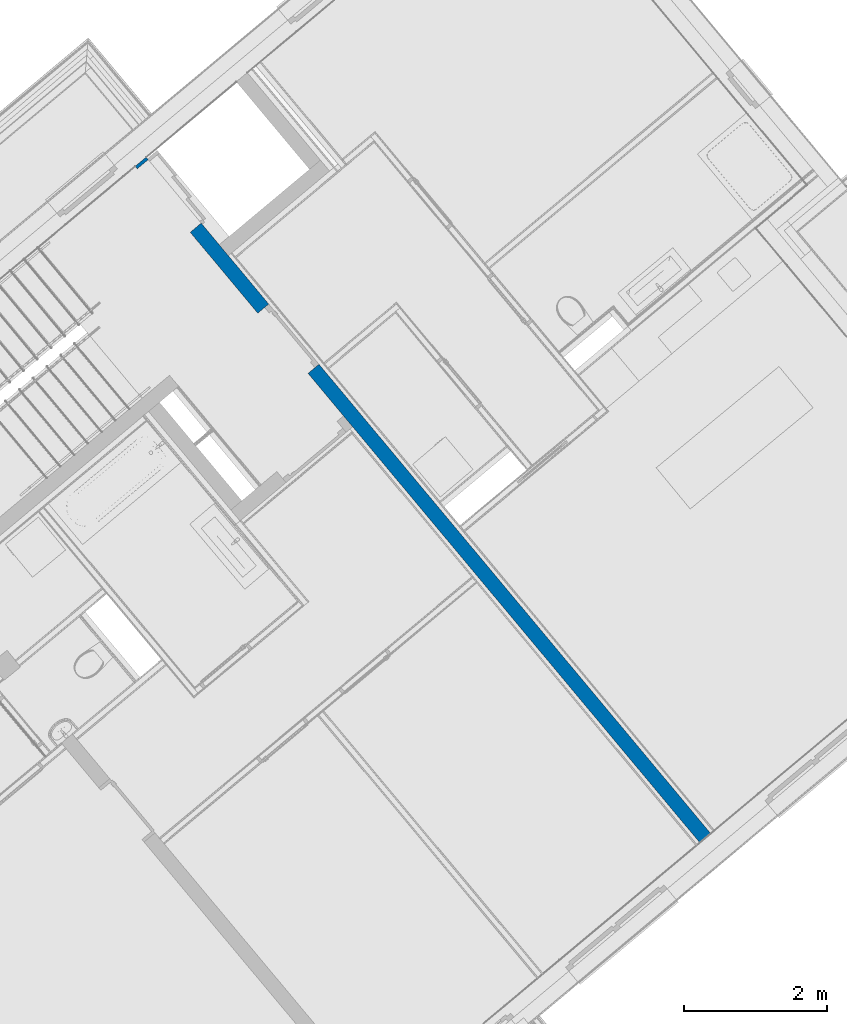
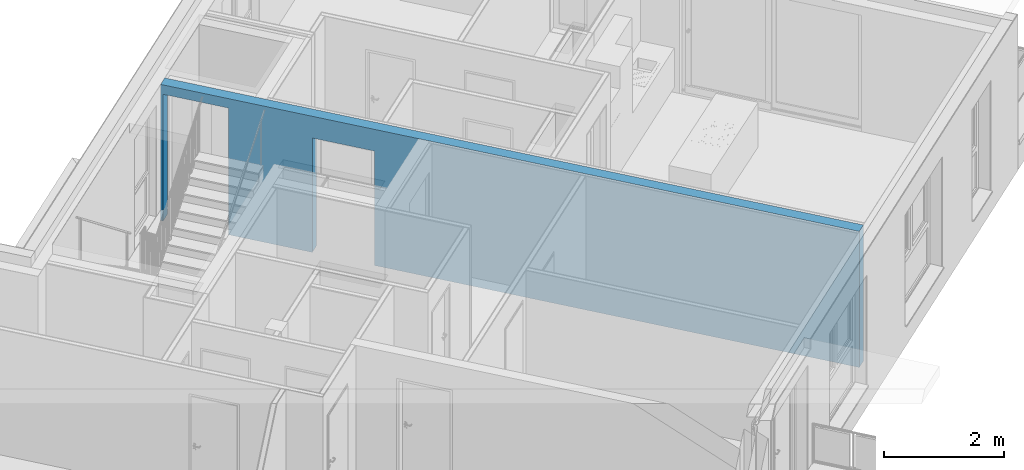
# One storey, part 8 of 53: 1 wall, 2 openings.
"""IFC4 building model written with IfcOpenShell, lengths in metres."""

import ifcopenshell
import ifcopenshell.guid

model = None  # the IFC model being written
_history = None  # IfcOwnerHistory: only IFC2X3 demands one
_inside = {}  # id of a spatial element -> (the spatial element, [elements in it])
_under = {}  # id of a project, library or spatial element -> (it, [spatial elements below it])
_declared = {}  # id of a project -> (the project, [libraries it declares])
_typed = {}  # id of a type object -> (the type object, [elements of that type])
_made_of = {}  # id of a material, layer set ... -> (it, [elements and type objects made of it])


def new_model(schema):
    """Start an empty IFC model of exactly this schema.

    Asked for "IFC4X3", IfcOpenShell would pick the latest addendum, in which some entities
    have other attributes; the version numbers below select the first issue.
    IFC2X3 requires an IfcOwnerHistory on every rooted entity: one is made here for all.
    """
    global model, _history
    if schema == "IFC4X3":
        model = ifcopenshell.file(schema_version=(4, 3, 0, 0))
    else:
        model = ifcopenshell.file(schema=schema)
    _inside.clear()
    _under.clear()
    _declared.clear()
    _typed.clear()
    _made_of.clear()
    _history = None
    if model.schema == "IFC2X3":
        org = make("IfcOrganization", Name="unknown")
        user = make(
            "IfcPersonAndOrganization",
            ThePerson=make("IfcPerson", FamilyName="unknown"),
            TheOrganization=org,
        )
        app = make(
            "IfcApplication",
            ApplicationDeveloper=org,
            Version="unknown",
            ApplicationFullName="unknown",
            ApplicationIdentifier="unknown",
        )
        _history = make(
            "IfcOwnerHistory",
            OwningUser=user,
            OwningApplication=app,
            ChangeAction="ADDED",
            CreationDate=0,
        )
    return model


def make(cls, **values):
    """One entity of the class cls with the attributes given. An attribute that is None is left unset."""
    return model.create_entity(
        cls, **{name: value for name, value in values.items() if value is not None}
    )


def entity(cls, *values):
    """Any entity or typed value of the class cls, its attributes in the order of the schema. None: left unset."""
    e = model.create_entity(cls)
    for i, value in enumerate(values):
        if value is not None:
            e[i] = value
    return e


def rooted(cls, **values):
    """An entity with a GlobalId (a new one), such as an element, a storey or a relation."""
    return make(cls, GlobalId=ifcopenshell.guid.new(), OwnerHistory=_history, **values)


def si_unit(unit_type, name, prefix=None):
    """IfcSIUnit, for example si_unit("LENGTHUNIT", "METRE", prefix="MILLI")."""
    return make("IfcSIUnit", UnitType=unit_type, Prefix=prefix, Name=name)


def converted_unit(unit_type, name, factor, base, dimensions=None, offset=None):
    """IfcConversionBasedUnit, such as the inch: factor (a typed value) times the base unit."""
    return make(
        "IfcConversionBasedUnit"
        if offset is None
        else "IfcConversionBasedUnitWithOffset",
        ConversionOffset=offset,
        Dimensions=None
        if dimensions is None
        else entity("IfcDimensionalExponents", *dimensions),
        UnitType=unit_type,
        Name=name,
        ConversionFactor=make(
            "IfcMeasureWithUnit", ValueComponent=factor, UnitComponent=base
        ),
    )


def derived_unit(unit_type, elements):
    """IfcDerivedUnit: a product of units, each with its exponent."""
    return make(
        "IfcDerivedUnit",
        Elements=[
            make("IfcDerivedUnitElement", Unit=unit, Exponent=power)
            for unit, power in elements
        ],
        UnitType=unit_type,
    )


def assignment(units):
    """IfcUnitAssignment: the units of a project."""
    return None if units is None else make("IfcUnitAssignment", Units=units)


def point(xyz):
    """IfcCartesianPoint."""
    return None if xyz is None else make("IfcCartesianPoint", Coordinates=xyz)


def direction(xyz):
    """IfcDirection."""
    return None if xyz is None else make("IfcDirection", DirectionRatios=xyz)


def frame(location, z_axis=None, x_axis=None):
    """IfcAxis2Placement3D, a coordinate frame: its origin and axes. An axis left out is left unset."""
    return make(
        "IfcAxis2Placement3D",
        Location=point(location),
        Axis=direction(z_axis),
        RefDirection=direction(x_axis),
    )


def origin_with_axes():
    """The frame at (0, 0, 0) with the z axis (0, 0, 1) and the x axis (1, 0, 0) written out."""
    return frame((0.0, 0.0, 0.0), z_axis=(0.0, 0.0, 1.0), x_axis=(1.0, 0.0, 0.0))


def place(relative_to, where):
    """IfcLocalPlacement: puts the frame where relative to a parent placement (None: the world)."""
    return make(
        "IfcLocalPlacement", PlacementRelTo=relative_to, RelativePlacement=where
    )


def context(
    kind, dimensions, precision=None, world=None, true_north=None, identifier=None
):
    """IfcGeometricRepresentationContext, for example the 3D "Model" context."""
    return make(
        "IfcGeometricRepresentationContext",
        ContextIdentifier=identifier,
        ContextType=kind,
        CoordinateSpaceDimension=dimensions,
        Precision=precision,
        WorldCoordinateSystem=world,
        TrueNorth=true_north,
    )


def subcontext(parent, identifier, kind, view, scale=None):
    """IfcGeometricRepresentationSubContext, for example "Body" below "Model"."""
    return make(
        "IfcGeometricRepresentationSubContext",
        ContextIdentifier=identifier,
        ContextType=kind,
        ParentContext=parent,
        TargetScale=scale,
        TargetView=view,
    )


def project(units=None, contexts=None):
    """IfcProject with its units and contexts."""
    return rooted(
        "IfcProject",
        Name="project",
        RepresentationContexts=contexts,
        UnitsInContext=assignment(units),
    )


def spatial(cls, under=None, at=None, **own):
    """A site, building, storey or space (cls), placed at a placement, below another one or the project."""
    s = rooted(cls, ObjectPlacement=at, **own)
    if under is not None:
        _under.setdefault(under.id(), (under, []))[1].append(s)
    return s


def point_list(points):
    """IfcCartesianPointList2D or 3D."""
    cls = (
        "IfcCartesianPointList2D" if len(points[0]) == 2 else "IfcCartesianPointList3D"
    )
    return make(cls, CoordList=points)


def polygons(points, faces, closed=None, point_numbers=None):
    """IfcPolygonalFaceSet: a face is its outer loop, then its inner loops; points numbered from 1."""
    made = []
    for loops in faces:
        if len(loops) == 1:
            made.append(make("IfcIndexedPolygonalFace", CoordIndex=loops[0]))
        else:
            made.append(
                make(
                    "IfcIndexedPolygonalFaceWithVoids",
                    CoordIndex=loops[0],
                    InnerCoordIndices=loops[1:],
                )
            )
    return make(
        "IfcPolygonalFaceSet",
        Coordinates=point_list(points),
        Closed=closed,
        Faces=made,
        PnIndex=point_numbers,
    )


def shape(context_of_items, identifier, shape_type, items):
    """IfcShapeRepresentation: the items that make up one representation, for example the "Body"."""
    return make(
        "IfcShapeRepresentation",
        ContextOfItems=context_of_items,
        RepresentationIdentifier=identifier,
        RepresentationType=shape_type,
        Items=items,
    )


def material(Name=None, Category=None):
    """IfcMaterial."""
    return make("IfcMaterial", Name=Name, Category=Category)


def made_of(thing, what):
    """Note that an element or type object is made of a material, layer set ...; save() writes the relation."""
    if what is not None:
        _made_of.setdefault(what.id(), (what, []))[1].append(thing)
    return thing


def type_object(cls, material=None, **own):
    """A type object (cls), such as IfcWallType, which elements share."""
    return made_of(rooted(cls, **own), material)


def element(
    cls,
    number,
    at=None,
    inside=None,
    cuts=None,
    type_object=None,
    material=None,
    context=None,
    identifier="Body",
    shape_type=None,
    held_by="IfcProductDefinitionShape",
    body=None,
    shapes=None,
    **own,
):
    """One element of the class cls, such as IfcWall. Its Tag is "e" and its number.

    at: its placement. inside: the storey or other place that contains it. cuts: it is an
    opening in that element (IfcRelVoidsElement). A single representation is given by context,
    identifier, shape_type and body (its items); several are given by shapes. held_by: the class
    of the entity that holds the representations. save() writes the other relations.
    """
    e = rooted(cls, Tag="e%d" % number, ObjectPlacement=at, **own)
    if body is not None:
        shapes = [shape(context, identifier, shape_type, body)]
    if shapes is not None:
        e.Representation = make(held_by, Representations=shapes)
    if inside is not None:
        _inside.setdefault(inside.id(), (inside, []))[1].append(e)
    if cuts is not None:
        rooted(
            "IfcRelVoidsElement", RelatingBuildingElement=cuts, RelatedOpeningElement=e
        )
    if type_object is not None:
        _typed.setdefault(type_object.id(), (type_object, []))[1].append(e)
    return made_of(e, material)


def aggregate(whole, parts):
    """IfcRelAggregates: a whole, such as a stair, and the parts it consists of."""
    return rooted("IfcRelAggregates", RelatingObject=whole, RelatedObjects=parts)


def save(model, path):
    """Write the relations noted so far, then the file.

    IfcRelAggregates (storeys below a building ...), IfcRelContainedInSpatialStructure (elements
    in a storey), IfcRelDefinesByType, IfcRelAssociatesMaterial and IfcRelDeclares: one each for
    every whole, place, type object, material and project.
    """
    for whole, parts in _under.values():
        aggregate(whole, parts)
    for where, things in _inside.values():
        rooted(
            "IfcRelContainedInSpatialStructure",
            RelatedElements=things,
            RelatingStructure=where,
        )
    for kind, things in _typed.values():
        rooted("IfcRelDefinesByType", RelatedObjects=things, RelatingType=kind)
    for what, things in _made_of.values():
        rooted("IfcRelAssociatesMaterial", RelatedObjects=things, RelatingMaterial=what)
    for by, libraries in _declared.values():
        rooted("IfcRelDeclares", RelatingContext=by, RelatedDefinitions=libraries)
    model.write(path)


model = new_model("IFC4")

# Units and contexts
model_context = context("Model", 3, precision=1e-05, world=origin_with_axes(), true_north=direction((0.0, 1.0)))
body_context = subcontext(model_context, "Body", "Model", "MODEL_VIEW")
ifc_project = project(units=[si_unit("LENGTHUNIT", "METRE"), si_unit("AREAUNIT", "SQUARE_METRE"), si_unit("VOLUMEUNIT", "CUBIC_METRE"), converted_unit("PLANEANGLEUNIT", "DEGREE", entity("IfcPlaneAngleMeasure", 0.0174532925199), si_unit("PLANEANGLEUNIT", "RADIAN"), dimensions=[0, 0, 0, 0, 0, 0, 0]), converted_unit("TIMEUNIT", "Year", entity("IfcTimeMeasure", 31556926.0), si_unit("TIMEUNIT", "SECOND"), dimensions=[0, 0, 1, 0, 0, 0, 0]), si_unit("MASSUNIT", "GRAM", prefix="KILO"), si_unit("THERMODYNAMICTEMPERATUREUNIT", "DEGREE_CELSIUS"), si_unit("LUMINOUSINTENSITYUNIT", "LUMEN"), si_unit("ENERGYUNIT", "JOULE", prefix="MEGA"), derived_unit("THERMALCONDUCTANCEUNIT", [(si_unit("POWERUNIT", "WATT"), 1), (si_unit("LENGTHUNIT", "METRE"), -1), (si_unit("THERMODYNAMICTEMPERATUREUNIT", "KELVIN"), -1)]), derived_unit("SPECIFICHEATCAPACITYUNIT", [(si_unit("ENERGYUNIT", "JOULE"), 1), (si_unit("MASSUNIT", "GRAM", prefix="KILO"), -1), (si_unit("THERMODYNAMICTEMPERATUREUNIT", "KELVIN"), -1)]), derived_unit("MASSDENSITYUNIT", [(si_unit("MASSUNIT", "GRAM", prefix="KILO"), 1), (si_unit("VOLUMEUNIT", "CUBIC_METRE"), -1)])], contexts=[model_context])

# Site, building, storey
site_placement = place(None, frame((-0.00153261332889, -0.00661245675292, 0.0), z_axis=(0.0, 0.0, 1.0), x_axis=(1.0, 0.0, 0.0)))
site = spatial("IfcSite", under=ifc_project, at=site_placement, Name="Gelände", CompositionType="ELEMENT")
building_placement = place(site_placement, origin_with_axes())
building = spatial("IfcBuilding", under=site, at=building_placement, Name="Gebäude", CompositionType="ELEMENT")
storey_placement = place(building_placement, frame((0.0, 0.0, 2.74), z_axis=(0.0, 0.0, 1.0), x_axis=(1.0, 0.0, 0.0)))
storey = spatial("IfcBuildingStorey", under=building, at=storey_placement, Name="OG1", CompositionType="ELEMENT", Elevation=2.74)

# Wall, openings
ifc_material = material(Name="Stahlbeton Wand")
wall_type = type_object("IfcWallType", Name="Stahlbeton Wand 200", PredefinedType="NOTDEFINED")
wall_placement = place(storey_placement, frame((8.26096619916, 16.5219342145, 0.0), z_axis=(0.0, 0.0, 1.0), x_axis=(-0.640845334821, 0.767670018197, 0.0)))
wall = element("IfcWall", 1, at=wall_placement, inside=storey, type_object=wall_type, material=ifc_material, Name="Wand-003", PredefinedType="NOTDEFINED", context=body_context, shape_type="Tessellation", body=[
    polygons([(12.3191850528, 4.58202684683e-08, 2.57), (12.3191850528, 9.38576505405e-09, 0.22), (12.3191850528, 9.38576505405e-09, 0.0), (12.3653297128, 0.0, 0.0), (12.3653297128, 0.0, 2.76), (0.0, 0.0, 2.76), (0.0, 0.0, 0.0), (8.58020969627, 4.58202684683e-08, 0.0), (8.58020969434, 4.58202684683e-08, 0.22), (8.58020969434, 4.5820272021e-08, 2.32), (9.68020969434, 4.5820272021e-08, 2.32), (9.68020969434, 1.84487696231e-08, 0.22), (9.68020969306, 1.84487696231e-08, 0.0), (11.1591850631, 4.1292480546e-10, 0.0), (11.1591850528, 4.1292480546e-10, 0.22), (11.1591850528, 4.5820272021e-08, 2.57), (12.3191850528, 0.2, 2.57), (12.3191850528, 0.2, 0.22), (12.3191850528, 0.2, 0.0), (12.3652348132, 0.2, 0.0), (12.3652348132, 0.2, 2.76), (0.0, 0.2, 2.76), (0.0, 0.2, 0.0), (8.58020969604, 0.2, 0.0), (8.58020969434, 0.2, 0.22), (8.58020969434, 0.075, 0.22), (8.58020969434, 0.2, 2.32), (9.68020969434, 0.2, 2.32), (9.68020969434, 0.2, 0.22), (9.68020969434, 0.075, 0.22), (9.68020969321, 0.2, 0.0), (11.1591850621, 0.2, 0.0), (11.1591850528, 0.2, 0.22), (11.1591850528, 0.2, 2.57)], [[[1, 2, 3, 4, 5, 6, 7, 8, 9, 10, 11, 12, 13, 14, 15, 16]], [[2, 1, 17, 18]], [[2, 18, 19, 3]], [[20, 4, 3, 19]], [[20, 21, 5, 4]], [[21, 22, 6, 5]], [[23, 7, 6, 22]], [[7, 23, 24, 8]], [[8, 24, 25, 26, 9]], [[26, 25, 27, 10, 9]], [[10, 27, 28, 11]], [[11, 28, 29, 30, 12]], [[29, 31, 13, 12, 30]], [[13, 31, 32, 14]], [[33, 15, 14, 32]], [[16, 15, 33, 34]], [[1, 16, 34, 17]], [[34, 33, 32, 31, 29, 28, 27, 25, 24, 23, 22, 21, 20, 19, 18, 17]]], closed=True),
])
opening_1_placement = place(wall_placement, frame((9.13020969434, 0.0, 0.22), z_axis=(0.0, 0.0, 1.0), x_axis=(1.0, 0.0, 0.0)))
element("IfcOpeningElement", 2, at=opening_1_placement, cuts=wall, Name="Tür-001", context=body_context, identifier="Reference", shape_type="Tessellation", body=[
    polygons([(-0.55, 0.075, -0.22), (-0.55, 0.075, 2.1), (-0.55, 6.48838227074, 2.1), (-0.55, 6.48838227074, -0.22), (-0.55, -6.28838227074, -0.22), (-0.55, -6.28838227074, 2.1), (0.55, 0.075, 2.1), (0.55, 6.48838227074, 2.1), (0.55, -6.28838227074, 2.1), (0.55, 6.48838227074, -0.22), (0.55, 0.075, -0.22), (0.55, -6.28838227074, -0.22)], [[[1, 2, 3, 4]], [[2, 1, 5, 6]], [[7, 8, 3, 2, 6, 9]], [[8, 10, 4, 3]], [[1, 4, 10, 11, 12, 5]], [[6, 5, 12, 9]], [[7, 11, 10, 8]], [[11, 7, 9, 12]]], closed=True),
])
opening_2_placement = place(wall_placement, frame((11.7391850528, 0.0, 0.22), z_axis=(0.0, 0.0, 1.0), x_axis=(1.0, 0.0, 0.0)))
element("IfcOpeningElement", 3, at=opening_2_placement, cuts=wall, Name="Tür-003", context=body_context, identifier="Reference", shape_type="Tessellation", body=[
    polygons([(0.58, 6.48838227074, 2.35), (0.58, 6.48838227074, -0.22), (-0.58, 6.48838227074, -0.22), (-0.58, 6.48838227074, 2.35), (0.58, -6.28838227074, 2.35), (0.58, -6.28838227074, -0.22), (-0.58, -6.28838227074, -0.22), (-0.58, -6.28838227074, 2.35)], [[[1, 2, 3, 4]], [[5, 6, 2, 1]], [[6, 7, 3, 2]], [[7, 8, 4, 3]], [[8, 5, 1, 4]], [[7, 6, 5, 8]]], closed=True),
])

save(model, "model.ifc")
